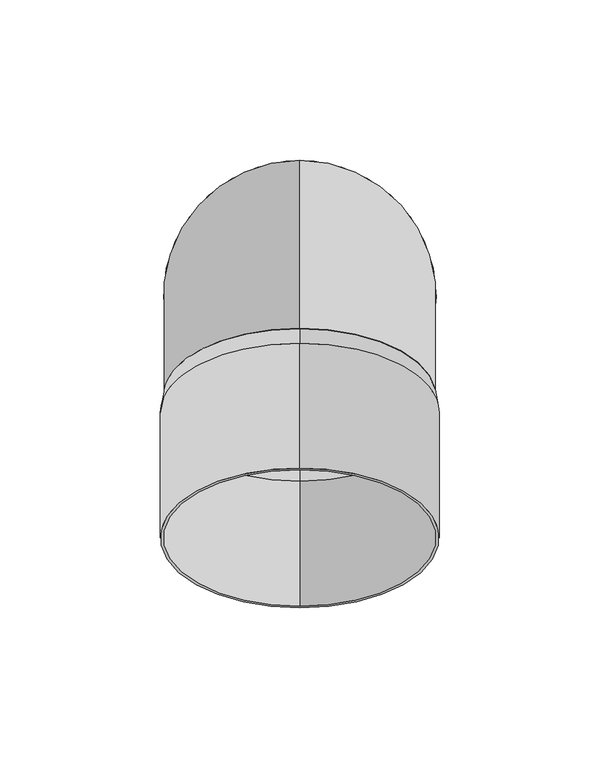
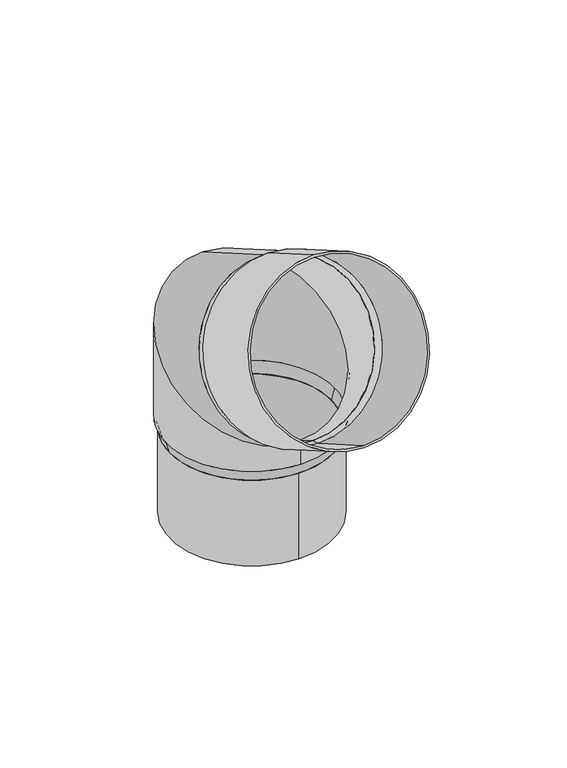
"""IFC4 building model written with IfcOpenShell, lengths in millimetres: proxy geometry, GROVIK_Downpipe_Knee : N85_60°_Up."""

from ifc_helpers import new_model, si_unit, point, frame, origin, origin_with_axes, origin_2d, place, context, project, spatial, polyline, circle_curve, ellipse_curve, trimmed, segment, composite_curve, outline, extrude, source, transform, mapped, element, save
from ifc_brep_helpers import plane_surface, cylinder_surface, revolved_surface, advanced_brep


def generic_models_7478f2ee(model_context):
    return source(origin(), model_context, "Body", "SolidModel", [
        extrude(outline(composite_curve([segment(trimmed(circle_curve(origin_2d(), 40.7), [point((0.0, 40.7))], [point((0.0, -40.7))], False, "CARTESIAN"), True, "CONTINUOUS"), segment(trimmed(circle_curve(origin_2d(), 40.7), [point((0.0, -40.7))], [point((0.0, 40.7))], False, "CARTESIAN"), True, "CONTINUOUS")], self_intersect=False), holes=[composite_curve([segment(trimmed(circle_curve(origin_2d(), 39.7), [point((0.0, 39.7))], [point((0.0, -39.7))], True, "CARTESIAN"), True, "CONTINUOUS"), segment(trimmed(circle_curve(origin_2d(), 39.7), [point((0.0, -39.7))], [point((0.0, 39.7))], True, "CARTESIAN"), True, "CONTINUOUS")], self_intersect=False)]), frame((0.0, 0.0, -51.0), z_axis=(0.0, 0.0, 1.0), x_axis=(1.0, 0.0, 0.0)), (0.0, 0.0, 1.0), 45.0),
        advanced_brep(
        [(0.0, 42.5, 0.0), (0.0, -42.5, 0.0), (0.0, 41.5, 0.0), (0.0, -41.5, 0.0), (0.0, 41.5, 59.8600362), (0.0, -41.5, 11.9399638), (0.0, 42.5, 60.4373864), (0.0, -42.5, 11.3626136), (0.0, -9.840312, 90.6560797), (0.0, -52.340312, 17.0439203), (0.0, -10.340312, 89.7900543), (0.0, -51.840312, 17.9099457)],
        [
            (0, 1, circle_curve(frame((0.0, 0.0, 0.0), z_axis=(0.0, 0.0, -1.0), x_axis=(0.0, -1.0, 0.0)), 42.5)),
            (1, 0, circle_curve(frame((0.0, 0.0, 0.0), z_axis=(0.0, 0.0, -1.0), x_axis=(0.0, -1.0, 0.0)), 42.5)),
            (2, 3, circle_curve(frame((0.0, 0.0, 0.0), z_axis=(0.0, 0.0, 1.0), x_axis=(0.0, -1.0, 0.0)), 41.5)),
            (3, 2, circle_curve(frame((0.0, 0.0, 0.0), z_axis=(0.0, 0.0, 1.0), x_axis=(0.0, -1.0, 0.0)), 41.5)),
            (2, 4),
            (4, 5, ellipse_curve(frame((0.0, 0.0, 35.9), z_axis=(0.0, -0.5000000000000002, 0.8660254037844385), x_axis=(0.0, 0.8660254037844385, 0.5000000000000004)), 47.9200723, 41.5)),
            (5, 3),
            (5, 4, ellipse_curve(frame((0.0, 0.0, 35.9), z_axis=(0.0, -0.5000000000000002, 0.8660254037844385), x_axis=(0.0, 0.8660254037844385, 0.5000000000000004)), 47.9200723, 41.5)),
            (0, 6),
            (6, 7, ellipse_curve(frame((0.0, 0.0, 35.9), z_axis=(0.0, 0.5000000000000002, -0.8660254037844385), x_axis=(0.0, -0.8660254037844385, -0.5000000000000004)), 49.0747729, 42.5)),
            (7, 1),
            (7, 6, ellipse_curve(frame((0.0, 0.0, 35.9), z_axis=(0.0, 0.5000000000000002, -0.8660254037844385), x_axis=(0.0, -0.8660254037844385, -0.5000000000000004)), 49.0747729, 42.5)),
            (8, 9, circle_curve(frame((0.0, -31.090312, 53.85), z_axis=(0.0, -0.8660254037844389, 0.49999999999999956), x_axis=(0.0, -0.49999999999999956, -0.8660254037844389)), 42.5)),
            (9, 8, circle_curve(frame((0.0, -31.090312, 53.85), z_axis=(0.0, -0.8660254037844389, 0.49999999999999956), x_axis=(0.0, -0.49999999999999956, -0.8660254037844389)), 42.5)),
            (10, 11, circle_curve(frame((0.0, -31.090312, 53.85), z_axis=(0.0, 0.8660254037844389, -0.49999999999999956), x_axis=(0.0, -0.49999999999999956, -0.8660254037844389)), 41.5)),
            (11, 10, circle_curve(frame((0.0, -31.090312, 53.85), z_axis=(0.0, 0.8660254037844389, -0.49999999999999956), x_axis=(0.0, -0.49999999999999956, -0.8660254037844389)), 41.5)),
            (4, 10),
            (11, 5),
            (6, 8),
            (9, 7),
        ],
        [
            plane_surface(frame((0.0, 0.0, 0.0), z_axis=(0.0, 0.0, -1.0), x_axis=(1.0, 0.0, 0.0))),
            revolved_surface(polyline([(0.0, -41.5, 59.8600362), (0.0, -41.5, 0.0)]), (0.0, 0.0, 0.0), (0.0, 0.0, 1.0)),
            cylinder_surface(frame((0.0, 0.0, 0.0), z_axis=(0.0, 0.0, -1.0), x_axis=(0.0, -1.0, 0.0)), 42.5),
            plane_surface(frame((0.0, -31.090312, 53.85), z_axis=(0.0, -0.8660254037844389, 0.49999999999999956), x_axis=(1.0, 0.0, 0.0))),
            revolved_surface(polyline([(0.0, -51.84031201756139, 17.909945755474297), (0.0, -1.2397343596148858e-08, -12.020072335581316)]), (0.0, 0.0, 35.9), (0.0, -0.8660254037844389, 0.49999999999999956)),
            cylinder_surface(frame((0.0, 0.0, 35.9), z_axis=(0.0, 0.8660254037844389, -0.49999999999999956), x_axis=(0.0, -0.49999999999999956, -0.8660254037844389)), 42.5),
        ],
        [
            (0, [[1, 2], [3, 4]]),
            (1, [[-3, 5, 6, 7]]),
            (1, [[-4, -7, 8, -5]]),
            (2, [[-1, 9, 10, 11]]),
            (2, [[-2, -11, 12, -9]]),
            (3, [[13, 14], [15, 16]]),
            (4, [[-6, 17, -16, 18]]),
            (4, [[-8, -18, -15, -17]]),
            (5, [[-10, 19, -14, 20]]),
            (5, [[-12, -20, -13, -19]]),
        ],
    ),
        advanced_brep(
        [(-40.7, 0.0, -6.0), (40.7, 0.0, -6.0), (-39.7, 0.0, -6.0), (39.7, 0.0, -6.0), (-42.5, 0.0, 0.0), (42.5, 0.0, 0.0), (41.5, 0.0, 0.0), (-41.5, 0.0, 0.0)],
        [
            (0, 1, circle_curve(frame((0.0, 0.0, -6.0), z_axis=(0.0, 0.0, -1.0), x_axis=(-1.0, 0.0, 0.0)), 40.7)),
            (1, 0, circle_curve(frame((0.0, 0.0, -6.0), z_axis=(0.0, 0.0, -1.0), x_axis=(1.0, 0.0, 0.0)), 40.7)),
            (2, 3, circle_curve(frame((0.0, 0.0, -6.0), z_axis=(0.0, 0.0, 1.0), x_axis=(1.0, 0.0, 0.0)), 39.7)),
            (3, 2, circle_curve(frame((0.0, 0.0, -6.0), z_axis=(0.0, 0.0, 1.0), x_axis=(-1.0, 0.0, 0.0)), 39.7)),
            (4, 5, circle_curve(origin_with_axes(), 42.5)),
            (5, 4, circle_curve(frame((0.0, 0.0, 0.0), z_axis=(0.0, 0.0, 1.0), x_axis=(-1.0, 0.0, 0.0)), 42.5)),
            (6, 7, circle_curve(frame((0.0, 0.0, 0.0), z_axis=(0.0, 0.0, -1.0), x_axis=(1.0, 0.0, 0.0)), 41.5)),
            (7, 6, circle_curve(frame((0.0, 0.0, 0.0), z_axis=(0.0, 0.0, -1.0), x_axis=(-1.0, 0.0, 0.0)), 41.5)),
            (1, 5),
            (4, 0),
            (6, 3),
            (2, 7),
        ],
        [
            plane_surface(frame((0.0, 0.0, -6.0), z_axis=(0.0, 0.0, -1.0), x_axis=(0.0, 1.0, 0.0))),
            plane_surface(frame((0.0, 0.0, 0.0), z_axis=(0.0, 0.0, 1.0), x_axis=(0.0, 1.0, 0.0))),
            revolved_surface(polyline([(40.70000000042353, 0.0, -6.0), (42.5, 0.0, 0.0)]), (0.0, 0.0, -141.6666667), (0.0, 0.0, 1.0)),
            revolved_surface(polyline([(-40.70000000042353, 0.0, -6.0), (-42.5, 0.0, 0.0)]), (0.0, 0.0, -141.6666667), (0.0, 0.0, 1.0)),
            revolved_surface(polyline([(41.5, 0.0, 0.0), (39.699999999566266, 0.0, -6.0)]), (0.0, 0.0, -138.3333333), (0.0, 0.0, 1.0)),
        ],
        [
            (0, [[1, 2], [3, 4]]),
            (1, [[5, 6], [7, 8]]),
            (2, [[-2, 9, -5, 10]]),
            (3, [[-1, -10, -6, -9]]),
            (4, [[11, -3, 12, -7]]),
            (4, [[-11, -8, -12, -4]]),
        ],
    ),
        extrude(outline(composite_curve([segment(trimmed(circle_curve(origin_2d(), 43.5), [point((0.0, -43.5))], [point((0.0, 43.5))], False, "CARTESIAN"), True, "CONTINUOUS"), segment(trimmed(circle_curve(origin_2d(), 43.5), [point((0.0, 43.5))], [point((0.0, -43.5))], False, "CARTESIAN"), True, "CONTINUOUS")], self_intersect=False), holes=[composite_curve([segment(trimmed(circle_curve(origin_2d(), 42.5), [point((0.0, -42.5))], [point((0.0, 42.5))], True, "CARTESIAN"), True, "CONTINUOUS"), segment(trimmed(circle_curve(origin_2d(), 42.5), [point((0.0, 42.5))], [point((0.0, -42.5))], True, "CARTESIAN"), True, "CONTINUOUS")], self_intersect=False)]), frame((0.0, -36.2864644, 56.85), z_axis=(0.0, -0.8660254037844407, 0.49999999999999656), x_axis=(1.0, 0.0, 0.0)), (0.0, 0.0, 1.0), 45.0),
        advanced_brep(
        [(0.0, -52.340312, 17.0439203), (0.0, -9.840312, 90.6560797), (0.0, -10.340312, 89.7900543), (0.0, -51.840312, 17.9099457), (0.0, -58.0364644, 19.1778949), (0.0, -14.5364644, 94.5221051), (0.0, -57.5364644, 20.0439203), (0.0, -15.0364644, 93.6560797)],
        [
            (0, 1, circle_curve(frame((0.0, -31.090312, 53.85), z_axis=(0.0, 0.8660254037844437, -0.4999999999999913), x_axis=(0.0, -0.4999999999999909, -0.8660254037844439)), 42.5)),
            (1, 0, circle_curve(frame((0.0, -31.090312, 53.85), z_axis=(0.0, 0.8660254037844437, -0.4999999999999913), x_axis=(0.0, 0.49999999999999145, 0.8660254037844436)), 42.5)),
            (2, 3, circle_curve(frame((0.0, -31.090312, 53.85), z_axis=(0.0, -0.8660254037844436, 0.49999999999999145), x_axis=(0.0, -0.4999999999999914, -0.8660254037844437)), 41.5)),
            (3, 2, circle_curve(frame((0.0, -31.090312, 53.85), z_axis=(0.0, -0.8660254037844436, 0.49999999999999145), x_axis=(0.0, 0.49999999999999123, 0.8660254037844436)), 41.5)),
            (4, 5, circle_curve(frame((0.0, -36.2864644, 56.85), z_axis=(0.0, -0.8660254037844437, 0.4999999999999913), x_axis=(0.0, 0.49999999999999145, 0.8660254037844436)), 43.5)),
            (5, 4, circle_curve(frame((0.0, -36.2864644, 56.85), z_axis=(0.0, -0.8660254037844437, 0.4999999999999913), x_axis=(0.0, -0.4999999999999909, -0.8660254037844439)), 43.5)),
            (6, 7, circle_curve(frame((0.0, -36.2864644, 56.85), z_axis=(0.0, 0.8660254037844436, -0.49999999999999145), x_axis=(0.0, -0.4999999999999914, -0.8660254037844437)), 42.5)),
            (7, 6, circle_curve(frame((0.0, -36.2864644, 56.85), z_axis=(0.0, 0.8660254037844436, -0.49999999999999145), x_axis=(0.0, 0.49999999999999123, 0.8660254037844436)), 42.5)),
            (0, 4),
            (5, 1),
            (6, 3),
            (2, 7),
        ],
        [
            plane_surface(frame((0.0, -31.090312, 53.85), z_axis=(0.0, 0.8660254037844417, -0.4999999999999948), x_axis=(-1.0, 0.0, 0.0))),
            plane_surface(frame((0.0, -36.2864644, 56.85), z_axis=(0.0, -0.8660254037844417, 0.4999999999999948), x_axis=(-1.0, 0.0, 0.0))),
            revolved_surface(polyline([(0.0, -52.3403119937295, 17.04392031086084), (0.0, -58.03646443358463, 19.177894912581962)]), (0.0, 189.746166, -73.65), (0.0, -0.8660254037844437, 0.4999999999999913)),
            revolved_surface(polyline([(0.0, -9.840311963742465, 90.65607968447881), (0.0, -14.5364644, 94.5221051)]), (0.0, 189.746166, -73.65), (0.0, -0.8660254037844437, 0.4999999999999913)),
            revolved_surface(polyline([(0.0, -57.536464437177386, 20.043920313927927), (0.0, -51.84031199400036, 17.90994571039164)]), (0.0, 184.5500135, -70.65), (0.0, -0.8660254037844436, 0.49999999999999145)),
        ],
        [
            (0, [[1, 2], [3, 4]]),
            (1, [[5, 6], [7, 8]]),
            (2, [[-1, 9, -6, 10]]),
            (3, [[-2, -10, -5, -9]]),
            (4, [[11, -3, 12, -7]]),
            (4, [[-11, -8, -12, -4]]),
        ],
    ),
    ])


if __name__ == "__main__":
    model = new_model("IFC4")
    model_context = context("Model", 3, world=origin())
    ifc_project = project(units=[si_unit("LENGTHUNIT", "METRE", prefix="MILLI")], contexts=[model_context])
    site = spatial("IfcSite", under=ifc_project)
    building = spatial("IfcBuilding", under=site)
    placement = place(None, origin())
    generic_models_shape = generic_models_7478f2ee(model_context)
    element("IfcBuildingElementProxy", 1, Name="GROVIK_Downpipe_Knee : N85_60°_Up", ObjectType="GROVIK_Downpipe_Knee : N85_60°_Up", at=placement, inside=building, context=model_context, shape_type="MappedRepresentation", body=[
        mapped(generic_models_shape, transform((0.0, 0.0, 0.0), x_axis=(1.0, 0.0, 0.0), y_axis=(0.0, 1.0, 0.0), z_axis=(0.0, 0.0, 1.0))),
    ])
    save(model, "model.ifc")
